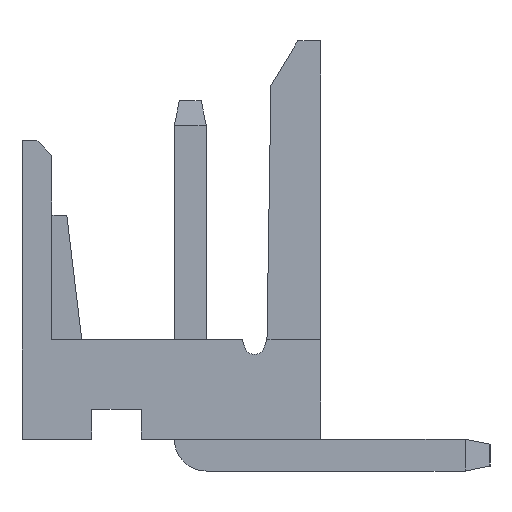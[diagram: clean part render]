
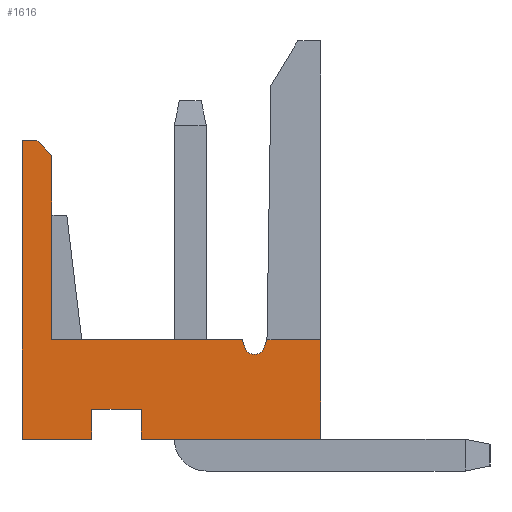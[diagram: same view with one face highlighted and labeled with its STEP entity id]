
A CAD part, left-side view. The second image highlights one B-rep face of the part: STEP entity #1616.
In plain terms, the highlighted planar face has unit normal (-1, 0, 0).
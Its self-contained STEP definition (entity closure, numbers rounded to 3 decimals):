
#252=CARTESIAN_POINT('Vertex',(-18.75,1.58,2.)) ;
#380=CARTESIAN_POINT('Vertex',(-18.75,5.4,2.)) ;
#383=CARTESIAN_POINT('Line Origine',(-18.75,3.49,2.)) ;
#908=CARTESIAN_POINT('Line Origine',(-18.75,1.549,1.915)) ;
#912=CARTESIAN_POINT('Vertex',(-18.75,1.518,1.831)) ;
#1279=CARTESIAN_POINT('Vertex',(-18.75,6.,0.)) ;
#1282=CARTESIAN_POINT('Line Origine',(-18.75,6.,3.)) ;
#1286=CARTESIAN_POINT('Vertex',(-18.75,6.,6.)) ;
#1407=CARTESIAN_POINT('Vertex',(-18.75,5.4,5.7)) ;
#1410=CARTESIAN_POINT('Line Origine',(-18.75,5.4,5.1)) ;
#1414=CARTESIAN_POINT('Vertex',(-18.75,5.4,4.5)) ;
#1417=CARTESIAN_POINT('Line Origine',(-18.75,5.4,3.25)) ;
#1520=CARTESIAN_POINT('Axis2P3D Location',(-18.75,0.,0.)) ;
#1525=CARTESIAN_POINT('Line Origine',(-18.75,5.55,5.85)) ;
#1529=CARTESIAN_POINT('Vertex',(-18.75,5.7,6.)) ;
#1532=CARTESIAN_POINT('Line Origine',(-18.75,5.85,6.)) ;
#1537=CARTESIAN_POINT('Line Origine',(-18.75,5.3,0.)) ;
#1541=CARTESIAN_POINT('Vertex',(-18.75,4.6,0.)) ;
#1544=CARTESIAN_POINT('Line Origine',(-18.75,4.6,0.3)) ;
#1548=CARTESIAN_POINT('Vertex',(-18.75,4.6,0.6)) ;
#1551=CARTESIAN_POINT('Line Origine',(-18.75,4.1,0.6)) ;
#1555=CARTESIAN_POINT('Vertex',(-18.75,3.6,0.6)) ;
#1558=CARTESIAN_POINT('Line Origine',(-18.75,3.6,0.3)) ;
#1562=CARTESIAN_POINT('Vertex',(-18.75,3.6,0.)) ;
#1565=CARTESIAN_POINT('Line Origine',(-18.75,1.8,0.)) ;
#1569=CARTESIAN_POINT('Vertex',(-18.75,0.,0.)) ;
#1572=CARTESIAN_POINT('Line Origine',(-18.75,0.,1.)) ;
#1576=CARTESIAN_POINT('Vertex',(-18.75,0.,2.)) ;
#1579=CARTESIAN_POINT('Line Origine',(-18.75,0.54,2.)) ;
#1583=CARTESIAN_POINT('Vertex',(-18.75,1.08,2.)) ;
#1586=CARTESIAN_POINT('Line Origine',(-18.75,1.111,1.915)) ;
#1590=CARTESIAN_POINT('Vertex',(-18.75,1.142,1.831)) ;
#1593=CARTESIAN_POINT('Axis2P3D Location',(-18.75,1.33,1.9)) ;
#384=DIRECTION('Vector Direction',(0.,-1.,0.)) ;
#909=DIRECTION('Vector Direction',(0.,-0.346,-0.938)) ;
#1283=DIRECTION('Vector Direction',(0.,0.,1.)) ;
#1411=DIRECTION('Vector Direction',(0.,0.,-1.)) ;
#1418=DIRECTION('Vector Direction',(0.,0.,1.)) ;
#1521=DIRECTION('Axis2P3D Direction',(1.,0.,0.)) ;
#1522=DIRECTION('Axis2P3D XDirection',(0.,1.,0.)) ;
#1526=DIRECTION('Vector Direction',(0.,-0.707,-0.707)) ;
#1533=DIRECTION('Vector Direction',(0.,-1.,0.)) ;
#1538=DIRECTION('Vector Direction',(0.,1.,0.)) ;
#1545=DIRECTION('Vector Direction',(0.,0.,-1.)) ;
#1552=DIRECTION('Vector Direction',(0.,1.,0.)) ;
#1559=DIRECTION('Vector Direction',(0.,0.,1.)) ;
#1566=DIRECTION('Vector Direction',(0.,1.,0.)) ;
#1573=DIRECTION('Vector Direction',(0.,0.,-1.)) ;
#1580=DIRECTION('Vector Direction',(0.,1.,0.)) ;
#1587=DIRECTION('Vector Direction',(0.,-0.346,0.938)) ;
#1594=DIRECTION('Axis2P3D Direction',(1.,0.,0.)) ;
#1523=AXIS2_PLACEMENT_3D('Plane Axis2P3D',#1520,#1521,#1522) ;
#1595=AXIS2_PLACEMENT_3D('Circle Axis2P3D',#1593,#1594,$) ;
#1599=ORIENTED_EDGE('',*,*,#1421,.T.) ;
#1600=ORIENTED_EDGE('',*,*,#1416,.F.) ;
#1601=ORIENTED_EDGE('',*,*,#1531,.F.) ;
#1602=ORIENTED_EDGE('',*,*,#1536,.F.) ;
#1603=ORIENTED_EDGE('',*,*,#1288,.F.) ;
#1604=ORIENTED_EDGE('',*,*,#1543,.F.) ;
#1605=ORIENTED_EDGE('',*,*,#1550,.F.) ;
#1606=ORIENTED_EDGE('',*,*,#1557,.F.) ;
#1607=ORIENTED_EDGE('',*,*,#1564,.F.) ;
#1608=ORIENTED_EDGE('',*,*,#1571,.F.) ;
#1609=ORIENTED_EDGE('',*,*,#1578,.F.) ;
#1610=ORIENTED_EDGE('',*,*,#1585,.F.) ;
#1611=ORIENTED_EDGE('',*,*,#1592,.F.) ;
#1612=ORIENTED_EDGE('',*,*,#1597,.F.) ;
#1613=ORIENTED_EDGE('',*,*,#914,.F.) ;
#1614=ORIENTED_EDGE('',*,*,#387,.F.) ;
#385=VECTOR('Line Direction',#384,1.) ;
#910=VECTOR('Line Direction',#909,1.) ;
#1284=VECTOR('Line Direction',#1283,1.) ;
#1412=VECTOR('Line Direction',#1411,1.) ;
#1419=VECTOR('Line Direction',#1418,1.) ;
#1527=VECTOR('Line Direction',#1526,1.) ;
#1534=VECTOR('Line Direction',#1533,1.) ;
#1539=VECTOR('Line Direction',#1538,1.) ;
#1546=VECTOR('Line Direction',#1545,1.) ;
#1553=VECTOR('Line Direction',#1552,1.) ;
#1560=VECTOR('Line Direction',#1559,1.) ;
#1567=VECTOR('Line Direction',#1566,1.) ;
#1574=VECTOR('Line Direction',#1573,1.) ;
#1581=VECTOR('Line Direction',#1580,1.) ;
#1588=VECTOR('Line Direction',#1587,1.) ;
#1616=ADVANCED_FACE('\X2\96F64EF651E04F554F53\X0\',(#1615),#1524,.F.) ;
#1596=CIRCLE('generated circle',#1595,0.2) ;
#387=EDGE_CURVE('',#381,#253,#386,.T.) ;
#914=EDGE_CURVE('',#253,#913,#911,.T.) ;
#1288=EDGE_CURVE('',#1280,#1287,#1285,.T.) ;
#1416=EDGE_CURVE('',#1408,#1415,#1413,.T.) ;
#1421=EDGE_CURVE('',#381,#1415,#1420,.T.) ;
#1531=EDGE_CURVE('',#1530,#1408,#1528,.T.) ;
#1536=EDGE_CURVE('',#1287,#1530,#1535,.T.) ;
#1543=EDGE_CURVE('',#1542,#1280,#1540,.T.) ;
#1550=EDGE_CURVE('',#1549,#1542,#1547,.T.) ;
#1557=EDGE_CURVE('',#1556,#1549,#1554,.T.) ;
#1564=EDGE_CURVE('',#1563,#1556,#1561,.T.) ;
#1571=EDGE_CURVE('',#1570,#1563,#1568,.T.) ;
#1578=EDGE_CURVE('',#1577,#1570,#1575,.T.) ;
#1585=EDGE_CURVE('',#1584,#1577,#1582,.F.) ;
#1592=EDGE_CURVE('',#1591,#1584,#1589,.T.) ;
#1597=EDGE_CURVE('',#913,#1591,#1596,.F.) ;
#1598=EDGE_LOOP('',(#1599,#1600,#1601,#1602,#1603,#1604,#1605,#1606,#1607,#1608,#1609,#1610,#1611,#1612,#1613,#1614)) ;
#1615=FACE_OUTER_BOUND('',#1598,.T.) ;
#386=LINE('Line',#383,#385) ;
#911=LINE('Line',#908,#910) ;
#1285=LINE('Line',#1282,#1284) ;
#1413=LINE('Line',#1410,#1412) ;
#1420=LINE('Line',#1417,#1419) ;
#1528=LINE('Line',#1525,#1527) ;
#1535=LINE('Line',#1532,#1534) ;
#1540=LINE('Line',#1537,#1539) ;
#1547=LINE('Line',#1544,#1546) ;
#1554=LINE('Line',#1551,#1553) ;
#1561=LINE('Line',#1558,#1560) ;
#1568=LINE('Line',#1565,#1567) ;
#1575=LINE('Line',#1572,#1574) ;
#1582=LINE('Line',#1579,#1581) ;
#1589=LINE('Line',#1586,#1588) ;
#1524=PLANE('Plane',#1523) ;
#253=VERTEX_POINT('',#252) ;
#381=VERTEX_POINT('',#380) ;
#913=VERTEX_POINT('',#912) ;
#1280=VERTEX_POINT('',#1279) ;
#1287=VERTEX_POINT('',#1286) ;
#1408=VERTEX_POINT('',#1407) ;
#1415=VERTEX_POINT('',#1414) ;
#1530=VERTEX_POINT('',#1529) ;
#1542=VERTEX_POINT('',#1541) ;
#1549=VERTEX_POINT('',#1548) ;
#1556=VERTEX_POINT('',#1555) ;
#1563=VERTEX_POINT('',#1562) ;
#1570=VERTEX_POINT('',#1569) ;
#1577=VERTEX_POINT('',#1576) ;
#1584=VERTEX_POINT('',#1583) ;
#1591=VERTEX_POINT('',#1590) ;
